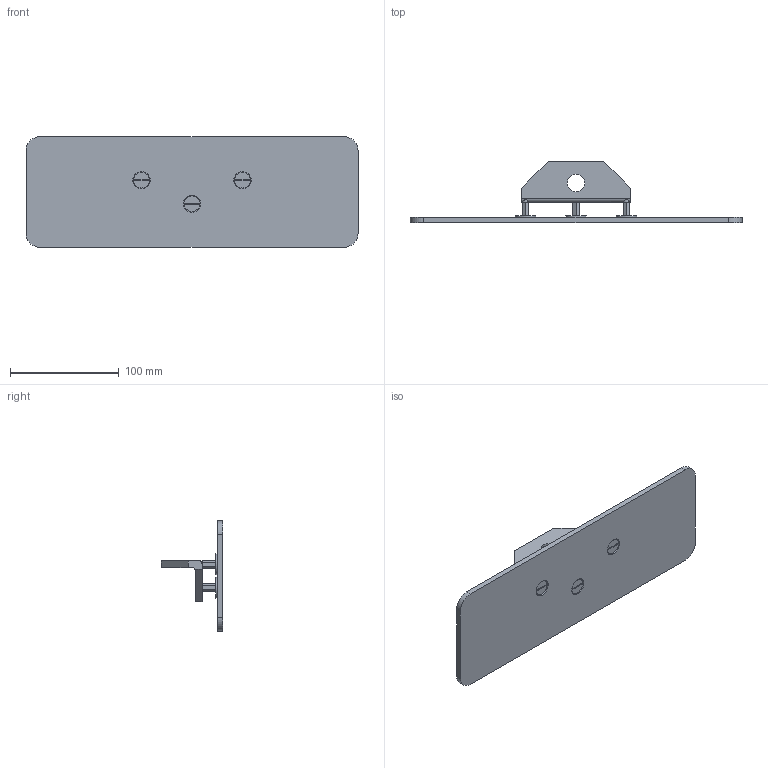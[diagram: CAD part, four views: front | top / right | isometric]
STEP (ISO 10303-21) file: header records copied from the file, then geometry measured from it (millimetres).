
FILE_DESCRIPTION (( 'STEP AP203' ), '1' );
FILE_NAME ('1014966.STEP', '2020-01-30T21:20:27', ( '' ), ( '' ), 'SwSTEP 2.0', 'SolidWorks 2019', '' );
FILE_SCHEMA (( 'CONFIG_CONTROL_DESIGN' ));
Length unit declared in the file: inch
Products named in the file (1): 1014966
Bounding box: 304.8 x 56.39 x 101.6 mm (x, y, z)
Volume: 182074.9 mm3; surface area: 78937.6 mm2
Topology: 1 solids, 1 shells, 126 faces, 298 edges, 184 vertices
Faces by surface type: plane 60, cone 36, cylinder 30
Entity records: 3925 total; most frequent: CARTESIAN_POINT 1001, ORIENTED_EDGE 596, DIRECTION 582, EDGE_CURVE 298, AXIS2_PLACEMENT_3D 233, VERTEX_POINT 184, EDGE_LOOP 142, FACE_OUTER_BOUND 126
